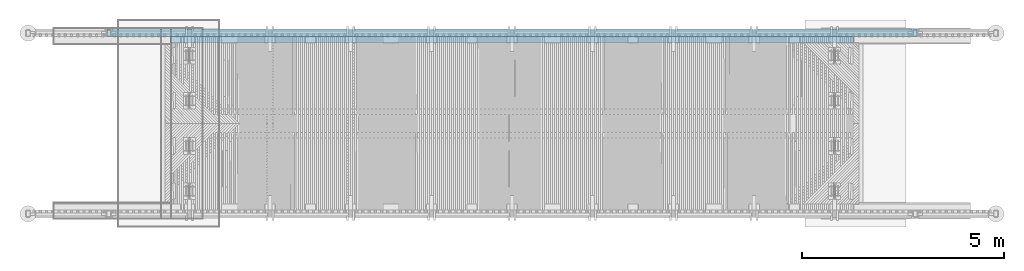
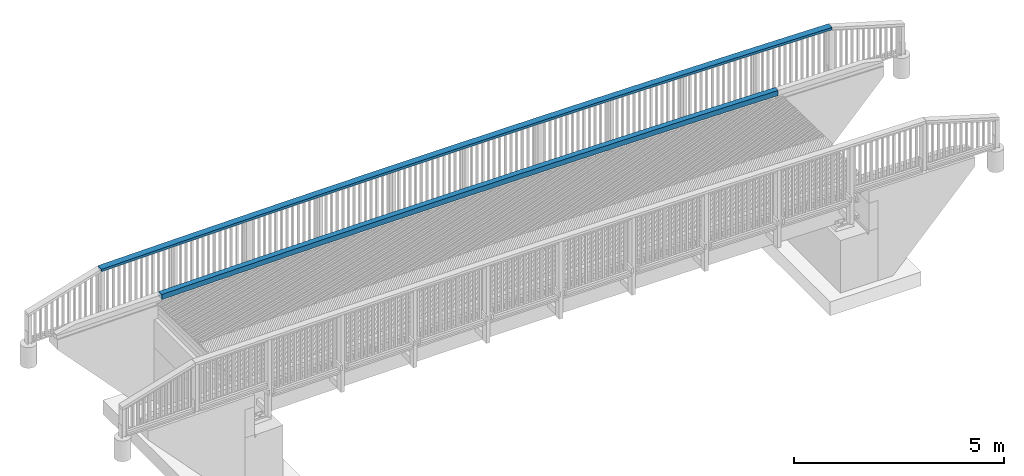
# One storey, part 36 of 52: 2 beams.
"""IFC2X3 building model written with IfcOpenShell, lengths in millimetres."""

from ifc_helpers import new_model, si_unit, frame, origin_with_axes, place, context, subcontext, project, spatial, faceted_brep, material, type_object, element, save


model = new_model("IFC2X3")

# Units and contexts
model_context = context("Model", 3, precision=1e-05, world=origin_with_axes())
body_context = subcontext(model_context, "Body", "Model", "MODEL_VIEW")
ifc_project = project(units=[si_unit("LENGTHUNIT", "METRE", prefix="MILLI"), si_unit("AREAUNIT", "SQUARE_METRE"), si_unit("VOLUMEUNIT", "CUBIC_METRE"), si_unit("MASSUNIT", "GRAM", prefix="KILO"), si_unit("TIMEUNIT", "SECOND"), si_unit("PLANEANGLEUNIT", "RADIAN"), si_unit("SOLIDANGLEUNIT", "STERADIAN"), si_unit("THERMODYNAMICTEMPERATUREUNIT", "DEGREE_CELSIUS"), si_unit("LUMINOUSINTENSITYUNIT", "LUMEN")], contexts=[model_context])

# Site, building, storey
site_placement = place(None, origin_with_axes())
site = spatial("IfcSite", under=ifc_project, at=site_placement, Name="Undefined", CompositionType="ELEMENT")
building_placement = place(site_placement, origin_with_axes())
building = spatial("IfcBuilding", under=site, at=building_placement, Name="Undefined", CompositionType="ELEMENT")
storey_placement = place(building_placement, origin_with_axes())
storey = spatial("IfcBuildingStorey", under=building, at=storey_placement, Name="Undefined", CompositionType="ELEMENT", Elevation=0.0)

# Beams
ifc_material = material(Name="TIMBER/Timber_Undefined")
beam_type_1 = type_object("IfcBeamType", Name="150*150", PredefinedType="NOTDEFINED")
beam_1_placement = place(storey_placement, frame((-101.638019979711, 4440.00490770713, 3288.62561019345), z_axis=(0.0, -1.0, 0.0), x_axis=(1.0, 0.0, 0.0)))
element("IfcBeam", 1, at=beam_1_placement, inside=storey, type_object=beam_type_1, material=ifc_material, Name="TÖRMÄYSJOHDE", ObjectType="150*150", context=body_context, shape_type="Brep", body=[
    faceted_brep([(-322.982711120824, -79.4552193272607, 75.0), (-325.088810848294, 70.5299944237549, 75.0), (-367.511180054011, 69.9228401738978, 75.0), (-368.361913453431, -80.1046921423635, 75.0), (-325.088810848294, 70.5299944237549, -75.0), (-367.511180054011, 69.9228401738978, -75.0), (-322.982711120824, -79.4552193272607, -75.0), (-368.361913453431, -80.1046921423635, -75.0), (1.01255045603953, -74.9931646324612, -75.0), (1.01255045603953, -74.9931646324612, 75.0), (-1.01255045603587, 74.9931646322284, 75.0), (-1.01255045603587, 74.9931646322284, -75.0), (323.066072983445, 79.2813189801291, -75.0), (325.010174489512, -70.7060820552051, -75.0), (325.010174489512, -70.7060820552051, 75.0), (323.066072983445, 79.2813189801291, 75.0), (647.146964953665, 83.3944562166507, 75.0), (647.146964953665, 83.3944562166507, -75.0), (649.010066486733, -66.5939728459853, -75.0), (649.010066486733, -66.5939728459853, 75.0), (973.012131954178, -62.6568382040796, 75.0), (971.230030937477, 87.3325751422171, 75.0), (971.230030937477, 87.3325751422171, -75.0), (973.012131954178, -62.6568382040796, -75.0), (1297.01627639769, -58.8946792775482, -75.0), (1297.01627639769, -58.8946792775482, 75.0), (1295.3151764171, 91.0956746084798, 75.0), (1295.3151764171, 91.0956746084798, -75.0), (1619.40230687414, 94.6837535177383, -75.0), (1621.0224053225, -55.307497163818, -75.0), (1621.0224053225, -55.307497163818, 75.0), (1619.40230687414, 94.6837535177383, 75.0), (1943.49132778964, 98.096810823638, 75.0), (1943.49132778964, 98.096810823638, -75.0), (1945.03042423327, -51.8952929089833, -75.0), (1945.03042423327, -51.8952929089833, 75.0), (2269.04023863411, -48.6580675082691, 75.0), (2267.58214464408, 101.334845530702, 75.0), (2267.58214464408, 101.334845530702, -75.0), (2269.04023863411, -48.6580675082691, -75.0), (2593.05175402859, -45.5958219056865, -75.0), (2593.05175402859, -45.5958219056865, 75.0), (2591.67466291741, 104.397856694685, 75.0), (2591.67466291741, 104.397856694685, -75.0), (2915.7687880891, 107.285843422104, -75.0), (2917.06487591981, -42.7085569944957, -75.0), (2917.06487591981, -42.7085569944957, 75.0), (2915.7687880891, 107.285843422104, 75.0), (3239.86442563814, 109.998804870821, 75.0), (3239.86442563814, 109.998804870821, -75.0), (3241.07950981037, -39.9962736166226, -75.0), (3241.07950981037, -39.9962736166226, 75.0), (3565.09556120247, -37.4589725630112, 75.0), (3563.96148104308, 112.536740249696, 75.0), (3563.96148104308, 112.536740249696, -75.0), (3565.09556120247, -37.4589725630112, -75.0), (3889.11293559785, -35.0966545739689, -75.0), (3889.11293559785, -35.0966545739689, 75.0), (3888.05985978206, 114.899648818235, 75.0), (3888.05985978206, 114.899648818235, -75.0), (4212.15946733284, 117.087529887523, -75.0), (4213.1315384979, -32.9093203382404, -75.0), (4213.1315384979, -32.9093203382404, 75.0), (4212.15946733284, 117.087529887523, 75.0), (4536.2602091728, 119.100382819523, 75.0), (4536.2602091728, 119.100382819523, -75.0), (4537.15127540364, -30.8969704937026, -75.0), (4537.15127540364, -30.8969704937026, 75.0), (4861.17205181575, -29.0596056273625, 75.0), (4860.36199077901, 120.938207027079, 75.0), (4860.36199077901, 120.938207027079, -75.0), (4861.17205181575, -29.0596056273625, -75.0), (5185.19377323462, -27.3972262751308, -75.0), (5185.19377323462, -27.3972262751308, 75.0), (5184.46471762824, 122.601001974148, 75.0), (5184.46471762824, 122.601001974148, -75.0), (5508.56829519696, 124.088767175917, -75.0), (5509.21634516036, -25.9098329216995, -75.0), (5509.21634516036, -25.9098329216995, 75.0), (5508.56829519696, 124.088767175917, 75.0), (5832.67262896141, 125.401502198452, 75.0), (5832.67262896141, 125.401502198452, -75.0), (5833.23967309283, -24.5974260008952, -75.0), (5833.23967309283, -24.5974260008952, 75.0), (6157.26366253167, -23.4600058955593, 75.0), (6156.77762439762, 126.539206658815, 75.0), (6156.77762439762, 126.539206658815, -75.0), (6157.26366253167, -23.4600058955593, -75.0), (6481.28821897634, -22.4975729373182, -75.0), (6481.28821897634, -22.4975729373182, 75.0), (6480.88318698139, 127.501880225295, 75.0), (6480.88318698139, 127.501880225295, -75.0), (6804.98922218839, 128.289522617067, -75.0), (6805.3132479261, -21.7101274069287, -75.0), (6805.3132479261, -21.7101274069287, 75.0), (6804.98922218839, 128.289522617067, 75.0), (7129.09563549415, 128.902133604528, 75.0), (7129.09563549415, 128.902133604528, -75.0), (7129.33865488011, -21.0976695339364, -75.0), (7129.33865488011, -21.0976695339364, 75.0), (7453.36434533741, -20.6601994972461, 75.0), (7453.20233237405, 129.339713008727, 75.0), (7453.20233237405, 129.339713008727, -75.0), (7453.36434533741, -20.6601994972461, -75.0), (7777.39022479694, -20.3977174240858, -75.0), (7777.39022479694, -20.3977174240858, 75.0), (7777.30921830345, 129.602260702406, 75.0), (7777.30921830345, 129.602260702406, -75.0), (8101.4161987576, 129.689776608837, -75.0), (8101.4161987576, -20.3102233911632, -75.0), (8101.4161987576, -20.3102233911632, 75.0), (8101.4161987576, 129.689776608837, 75.0), (8425.52317921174, 129.602260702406, 75.0), (8425.52317921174, 129.602260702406, -75.0), (8425.44217271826, -20.3977174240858, -75.0), (8425.44217271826, -20.3977174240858, 75.0), (8749.46805217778, -20.6601994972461, 75.0), (8749.63006514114, 129.339713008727, 75.0), (8749.63006514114, 129.339713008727, -75.0), (8749.46805217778, -20.6601994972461, -75.0), (9073.49374263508, -21.0976695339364, -75.0), (9073.49374263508, -21.0976695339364, 75.0), (9073.73676202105, 128.902133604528, 75.0), (9073.73676202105, 128.902133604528, -75.0), (9397.8431753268, 128.289522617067, -75.0), (9397.51914958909, -21.7101274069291, -75.0), (9397.51914958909, -21.7101274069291, 75.0), (9397.8431753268, 128.289522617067, 75.0), (9721.9492105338, 127.501880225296, 75.0), (9721.9492105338, 127.501880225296, -75.0), (9721.54417853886, -22.4975729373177, -75.0), (9721.54417853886, -22.4975729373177, 75.0), (10045.5687349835, -23.4600058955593, 75.0), (10046.0547731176, 126.539206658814, 75.0), (10046.0547731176, 126.539206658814, -75.0), (10045.5687349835, -23.4600058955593, -75.0), (10369.5927244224, -24.5974260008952, -75.0), (10369.5927244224, -24.5974260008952, 75.0), (10370.1597685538, 125.401502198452, 75.0), (10370.1597685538, 125.401502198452, -75.0), (10694.2641023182, 124.088767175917, -75.0), (10693.6160523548, -25.9098329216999, -75.0), (10693.6160523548, -25.9098329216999, 75.0), (10694.2641023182, 124.088767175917, 75.0), (11018.367679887, 122.601001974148, 75.0), (11018.367679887, 122.601001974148, -75.0), (11017.6386242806, -27.3972262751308, -75.0), (11017.6386242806, -27.3972262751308, 75.0), (11341.6603456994, -29.0596056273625, 75.0), (11342.4704067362, 120.938207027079, 75.0), (11342.4704067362, 120.938207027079, -75.0), (11341.6603456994, -29.0596056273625, -75.0), (11665.6811221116, -30.8969704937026, -75.0), (11665.6811221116, -30.8969704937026, 75.0), (11666.5721883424, 119.100382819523, 75.0), (11666.5721883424, 119.100382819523, -75.0), (11990.6729301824, 117.087529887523, -75.0), (11989.7008590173, -32.9093203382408, -75.0), (11989.7008590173, -32.9093203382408, 75.0), (11990.6729301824, 117.087529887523, 75.0), (12314.7725377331, 114.899648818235, 75.0), (12314.7725377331, 114.899648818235, -75.0), (12313.7194619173, -35.0966545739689, -75.0), (12313.7194619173, -35.0966545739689, 75.0), (12637.7368363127, -37.4589725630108, 75.0), (12638.8709164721, 112.536740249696, 75.0), (12638.8709164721, 112.536740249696, -75.0), (12637.7368363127, -37.4589725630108, -75.0), (12961.7528877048, -39.9962736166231, -75.0), (12961.7528877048, -39.9962736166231, 75.0), (12962.9679718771, 109.998804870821, 75.0), (12962.9679718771, 109.998804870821, -75.0), (13287.0636094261, 107.285843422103, -75.0), (13285.7675215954, -42.7085569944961, -75.0), (13285.7675215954, -42.7085569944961, 75.0), (13287.0636094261, 107.285843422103, 75.0), (13611.1577345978, 104.397856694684, 75.0), (13611.1577345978, 104.397856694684, -75.0), (13609.7806434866, -45.5958219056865, -75.0), (13609.7806434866, -45.5958219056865, 75.0), (13933.7921588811, -48.6580675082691, 75.0), (13935.2502528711, 101.334845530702, 75.0), (13935.2502528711, 101.334845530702, -75.0), (13933.7921588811, -48.6580675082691, -75.0), (14257.8019732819, -51.8952929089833, -75.0), (14257.8019732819, -51.8952929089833, 75.0), (14259.3410697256, 98.096810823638, 75.0), (14259.3410697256, 98.096810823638, -75.0), (14583.430090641, 94.6837535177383, -75.0), (14581.8099921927, -55.3074971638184, -75.0), (14581.8099921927, -55.3074971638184, 75.0), (14583.430090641, 94.6837535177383, 75.0), (14907.5172210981, 91.0956746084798, 75.0), (14907.5172210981, 91.0956746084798, -75.0), (14905.8161211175, -58.8946792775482, -75.0), (14905.8161211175, -58.8946792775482, 75.0), (15229.820265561, -62.6568382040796, 75.0), (15231.6023665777, 87.3325751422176, 75.0), (15231.6023665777, 87.3325751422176, -75.0), (15229.820265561, -62.6568382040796, -75.0), (15553.8223310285, -66.5939728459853, -75.0), (15553.8223310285, -66.5939728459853, 75.0), (15555.6854325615, 83.3944562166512, 75.0), (15555.6854325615, 83.3944562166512, -75.0), (15879.7663245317, 79.2813189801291, -75.0), (15877.8222230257, -70.7060820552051, -75.0), (15877.8222230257, -70.7060820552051, 75.0), (15879.7663245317, 79.2813189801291, 75.0), (16203.8449479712, 74.9931646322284, 75.0), (16203.8449479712, 74.9931646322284, -75.0), (16201.8198470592, -74.9931646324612, -75.0), (16201.8198470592, -74.9931646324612, 75.0), (16513.3537972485, -79.2803664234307, 75.0), (16515.4567816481, 70.7048910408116, 75.0), (16515.4567816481, 70.7048910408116, -75.0), (16513.3537972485, -79.2803664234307, -75.0), (16571.6382119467, -80.1127239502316, -75.0), (16571.6382119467, -80.1127239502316, 75.0), (16570.7872297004, 69.9147190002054, 75.0), (16570.7872297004, 69.9147190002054, -75.0)], [[[0, 1, 2, 3]], [[1, 4, 5, 2]], [[4, 6, 7, 5]], [[3, 2, 5, 7]], [[6, 0, 3, 7]], [[0, 6, 8, 9]], [[1, 0, 9, 10]], [[4, 1, 10, 11]], [[6, 4, 11, 8]], [[8, 11, 12, 13]], [[9, 8, 13, 14]], [[10, 9, 14, 15]], [[11, 10, 15, 12]], [[12, 15, 16, 17]], [[13, 12, 17, 18]], [[14, 13, 18, 19]], [[15, 14, 19, 16]], [[16, 19, 20, 21]], [[17, 16, 21, 22]], [[18, 17, 22, 23]], [[19, 18, 23, 20]], [[20, 23, 24, 25]], [[21, 20, 25, 26]], [[22, 21, 26, 27]], [[23, 22, 27, 24]], [[24, 27, 28, 29]], [[25, 24, 29, 30]], [[26, 25, 30, 31]], [[27, 26, 31, 28]], [[28, 31, 32, 33]], [[29, 28, 33, 34]], [[30, 29, 34, 35]], [[31, 30, 35, 32]], [[32, 35, 36, 37]], [[33, 32, 37, 38]], [[34, 33, 38, 39]], [[35, 34, 39, 36]], [[36, 39, 40, 41]], [[37, 36, 41, 42]], [[38, 37, 42, 43]], [[39, 38, 43, 40]], [[40, 43, 44, 45]], [[41, 40, 45, 46]], [[42, 41, 46, 47]], [[43, 42, 47, 44]], [[44, 47, 48, 49]], [[45, 44, 49, 50]], [[46, 45, 50, 51]], [[47, 46, 51, 48]], [[48, 51, 52, 53]], [[49, 48, 53, 54]], [[50, 49, 54, 55]], [[51, 50, 55, 52]], [[52, 55, 56, 57]], [[53, 52, 57, 58]], [[54, 53, 58, 59]], [[55, 54, 59, 56]], [[56, 59, 60, 61]], [[57, 56, 61, 62]], [[58, 57, 62, 63]], [[59, 58, 63, 60]], [[60, 63, 64, 65]], [[61, 60, 65, 66]], [[62, 61, 66, 67]], [[63, 62, 67, 64]], [[64, 67, 68, 69]], [[65, 64, 69, 70]], [[66, 65, 70, 71]], [[67, 66, 71, 68]], [[68, 71, 72, 73]], [[69, 68, 73, 74]], [[70, 69, 74, 75]], [[71, 70, 75, 72]], [[72, 75, 76, 77]], [[73, 72, 77, 78]], [[74, 73, 78, 79]], [[75, 74, 79, 76]], [[76, 79, 80, 81]], [[77, 76, 81, 82]], [[78, 77, 82, 83]], [[79, 78, 83, 80]], [[80, 83, 84, 85]], [[81, 80, 85, 86]], [[82, 81, 86, 87]], [[83, 82, 87, 84]], [[84, 87, 88, 89]], [[85, 84, 89, 90]], [[86, 85, 90, 91]], [[87, 86, 91, 88]], [[88, 91, 92, 93]], [[89, 88, 93, 94]], [[90, 89, 94, 95]], [[91, 90, 95, 92]], [[92, 95, 96, 97]], [[93, 92, 97, 98]], [[94, 93, 98, 99]], [[95, 94, 99, 96]], [[96, 99, 100, 101]], [[97, 96, 101, 102]], [[98, 97, 102, 103]], [[99, 98, 103, 100]], [[100, 103, 104, 105]], [[101, 100, 105, 106]], [[102, 101, 106, 107]], [[103, 102, 107, 104]], [[104, 107, 108, 109]], [[105, 104, 109, 110]], [[106, 105, 110, 111]], [[107, 106, 111, 108]], [[108, 111, 112, 113]], [[109, 108, 113, 114]], [[110, 109, 114, 115]], [[111, 110, 115, 112]], [[112, 115, 116, 117]], [[113, 112, 117, 118]], [[114, 113, 118, 119]], [[115, 114, 119, 116]], [[116, 119, 120, 121]], [[117, 116, 121, 122]], [[118, 117, 122, 123]], [[119, 118, 123, 120]], [[120, 123, 124, 125]], [[121, 120, 125, 126]], [[122, 121, 126, 127]], [[123, 122, 127, 124]], [[124, 127, 128, 129]], [[125, 124, 129, 130]], [[126, 125, 130, 131]], [[127, 126, 131, 128]], [[128, 131, 132, 133]], [[129, 128, 133, 134]], [[130, 129, 134, 135]], [[131, 130, 135, 132]], [[132, 135, 136, 137]], [[133, 132, 137, 138]], [[134, 133, 138, 139]], [[135, 134, 139, 136]], [[136, 139, 140, 141]], [[137, 136, 141, 142]], [[138, 137, 142, 143]], [[139, 138, 143, 140]], [[140, 143, 144, 145]], [[141, 140, 145, 146]], [[142, 141, 146, 147]], [[143, 142, 147, 144]], [[144, 147, 148, 149]], [[145, 144, 149, 150]], [[146, 145, 150, 151]], [[147, 146, 151, 148]], [[148, 151, 152, 153]], [[149, 148, 153, 154]], [[150, 149, 154, 155]], [[151, 150, 155, 152]], [[152, 155, 156, 157]], [[153, 152, 157, 158]], [[154, 153, 158, 159]], [[155, 154, 159, 156]], [[156, 159, 160, 161]], [[157, 156, 161, 162]], [[158, 157, 162, 163]], [[159, 158, 163, 160]], [[160, 163, 164, 165]], [[161, 160, 165, 166]], [[162, 161, 166, 167]], [[163, 162, 167, 164]], [[164, 167, 168, 169]], [[165, 164, 169, 170]], [[166, 165, 170, 171]], [[167, 166, 171, 168]], [[168, 171, 172, 173]], [[169, 168, 173, 174]], [[170, 169, 174, 175]], [[171, 170, 175, 172]], [[172, 175, 176, 177]], [[173, 172, 177, 178]], [[174, 173, 178, 179]], [[175, 174, 179, 176]], [[176, 179, 180, 181]], [[177, 176, 181, 182]], [[178, 177, 182, 183]], [[179, 178, 183, 180]], [[180, 183, 184, 185]], [[181, 180, 185, 186]], [[182, 181, 186, 187]], [[183, 182, 187, 184]], [[184, 187, 188, 189]], [[185, 184, 189, 190]], [[186, 185, 190, 191]], [[187, 186, 191, 188]], [[188, 191, 192, 193]], [[189, 188, 193, 194]], [[190, 189, 194, 195]], [[191, 190, 195, 192]], [[192, 195, 196, 197]], [[193, 192, 197, 198]], [[194, 193, 198, 199]], [[195, 194, 199, 196]], [[196, 199, 200, 201]], [[197, 196, 201, 202]], [[198, 197, 202, 203]], [[199, 198, 203, 200]], [[200, 203, 204, 205]], [[201, 200, 205, 206]], [[202, 201, 206, 207]], [[203, 202, 207, 204]], [[204, 207, 208, 209]], [[205, 204, 209, 210]], [[206, 205, 210, 211]], [[207, 206, 211, 208]], [[208, 211, 212, 213]], [[209, 208, 213, 214]], [[210, 209, 214, 215]], [[211, 210, 215, 212]], [[212, 215, 216, 217]], [[213, 212, 217, 218]], [[214, 213, 218, 219]], [[215, 214, 219, 216]], [[218, 217, 216, 219]]]),
])
beam_type_2 = type_object("IfcBeamType", Name="180*70", PredefinedType="NOTDEFINED")
beam_2_placement = place(storey_placement, frame((-2050.58316541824, 4604.98790803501, 4514.55540579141), z_axis=(0.0, 1.0, 0.0), x_axis=(1.0, 0.0, 0.0)))
element("IfcBeam", 2, at=beam_2_placement, inside=storey, type_object=beam_type_2, material=ifc_material, Name="YLÄJOHDE", ObjectType="180*70", context=body_context, shape_type="Brep", body=[
    faceted_brep([(402.548160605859, 28.4307633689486, 90.0), (402.548160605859, 28.4307633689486, -90.0), (9.58316613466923, 34.8481648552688, -90.0), (9.58316613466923, 34.8481648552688, 90.0), (401.428487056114, -41.5602812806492, -90.0), (9.58316627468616, -35.1611648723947, -90.0), (401.428487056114, -41.5602812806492, 90.0), (9.58316627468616, -35.1611648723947, 90.0), (803.444421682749, -47.8574786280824, 90.0), (804.517445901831, 22.1342967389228, 90.0), (804.517445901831, 22.1342967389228, -90.0), (803.444421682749, -47.8574786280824, -90.0), (1205.46446410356, -53.8867306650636, -90.0), (1205.46446410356, -53.8867306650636, 90.0), (1206.49083851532, 16.105744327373, 90.0), (1206.49083851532, 16.105744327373, -90.0), (1608.46815988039, 10.3451088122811, -90.0), (1607.4884357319, -59.6480347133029, -90.0), (1607.4884357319, -59.6480347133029, 90.0), (1608.46815988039, 10.3451088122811, 90.0), (2010.44923142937, 4.85239275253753, 90.0), (2010.44923142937, 4.85239275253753, -90.0), (2009.51615797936, -65.1413882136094, -90.0), (2009.51615797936, -65.1413882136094, 90.0), (2411.54745225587, -70.3667887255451, 90.0), (2412.43387459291, -0.372401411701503, 90.0), (2412.43387459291, -0.372401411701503, -90.0), (2411.54745225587, -70.3667887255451, -90.0), (2813.58213996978, -75.3242339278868, -90.0), (2813.58213996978, -75.3242339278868, 90.0), (2814.42191080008, -5.32927135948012, 90.0), (2814.42191080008, -5.32927135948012, -90.0), (3216.41316147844, -10.0182148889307, -90.0), (3215.62004252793, -80.0137216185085, -90.0), (3215.62004252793, -80.0137216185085, 90.0), (3216.41316147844, -10.0182148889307, 90.0), (3618.40744805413, -14.4392299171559, 90.0), (3618.40744805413, -14.4392299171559, -90.0), (3617.66098133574, -84.4352497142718, -90.0), (3617.66098133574, -84.4352497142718, 90.0), (4019.70477779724, -88.5888162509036, 90.0), (4020.40459195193, -18.5923144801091, 90.0), (4020.40459195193, -18.5923144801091, -90.0), (4019.70477779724, -88.5888162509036, -90.0), (4421.75125331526, -92.4744193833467, -90.0), (4421.75125331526, -92.4744193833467, 90.0), (4422.40441459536, -22.4774667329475, 90.0), (4422.40441459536, -22.4774667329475, -90.0), (4824.40673740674, -26.0946849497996, -90.0), (4823.80022929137, -96.0920573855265, -90.0), (4823.80022929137, -96.0920573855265, 90.0), (4824.40673740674, -26.0946849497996, 90.0), (5226.4113818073, -29.4439675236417, 90.0), (5226.4113818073, -29.4439675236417, -90.0), (5225.85152712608, -99.4417286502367, -90.0), (5225.85152712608, -99.4417286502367, 90.0), (5627.90496821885, -102.523431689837, 90.0), (5628.41816921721, -32.5253129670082, 90.0), (5628.41816921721, -32.5253129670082, -90.0), (5627.90496821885, -102.523431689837, -90.0), (6029.96037396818, -105.337165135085, -90.0), (6029.96037396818, -105.337165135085, 90.0), (6030.4269210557, -35.3387199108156, 90.0), (6030.4269210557, -35.3387199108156, -90.0), (6432.43745874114, -37.8841871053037, -90.0), (6432.01756577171, -107.882927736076, -90.0), (6432.01756577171, -107.882927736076, 90.0), (6432.43745874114, -37.8841871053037, 90.0), (6834.4496036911, -40.1617134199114, 90.0), (6834.4496036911, -40.1617134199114, -90.0), (6834.07636502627, -110.160718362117, -90.0), (6834.07636502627, -110.160718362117, 90.0), (7236.136593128, -112.170536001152, 90.0), (7236.46317732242, -42.1712978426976, 90.0), (7236.46317732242, -42.1712978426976, -90.0), (7236.136593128, -112.170536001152, -90.0), (7638.19807147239, -113.912379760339, -90.0), (7638.19807147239, -113.912379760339, 90.0), (7638.47800105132, -43.9129394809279, 90.0), (7638.47800105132, -43.9129394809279, -90.0), (8040.49389629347, -45.3866375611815, -90.0), (8040.26062145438, -115.38624886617, -90.0), (8040.26062145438, -115.38624886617, 90.0), (8040.49389629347, -45.3866375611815, 90.0), (8442.51068446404, -46.5923914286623, 90.0), (8442.51068446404, -46.5923914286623, -90.0), (8442.32406446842, -116.592142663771, -90.0), (8442.32406446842, -116.592142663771, 90.0), (8844.38822190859, -117.530060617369, 90.0), (8844.52818697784, -47.530200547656, 90.0), (8844.52818697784, -47.530200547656, -90.0), (8844.38822190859, -117.530060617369, -90.0), (9246.45291516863, -118.200002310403, -90.0), (9246.45291516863, -118.200002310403, 90.0), (9246.54622524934, -48.2000645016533, 90.0), (9246.54622524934, -48.2000645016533, -90.0), (9648.56462069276, -48.6019829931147, -90.0), (9648.51796564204, -118.601967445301, -90.0), (9648.51796564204, -118.601967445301, 90.0), (9648.56462069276, -48.6019829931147, 90.0), (10050.5831947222, -48.7359558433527, 90.0), (10050.5831947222, -48.7359558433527, -90.0), (10050.5831947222, -118.735955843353, -90.0), (10050.5831947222, -118.735955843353, 90.0), (10452.6484238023, -118.601967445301, 90.0), (10452.6017687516, -48.6019829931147, 90.0), (10452.6017687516, -48.6019829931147, -90.0), (10452.6484238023, -118.601967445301, -90.0), (10854.7134742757, -118.200002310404, -90.0), (10854.7134742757, -118.200002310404, 90.0), (10854.620164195, -48.2000645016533, 90.0), (10854.620164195, -48.2000645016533, -90.0), (11256.6382024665, -47.530200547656, -90.0), (11256.7781675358, -117.530060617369, -90.0), (11256.7781675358, -117.530060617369, 90.0), (11256.6382024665, -47.530200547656, 90.0), (11658.6557049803, -46.5923914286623, 90.0), (11658.6557049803, -46.5923914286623, -90.0), (11658.8423249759, -116.592142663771, -90.0), (11658.8423249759, -116.592142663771, 90.0), (12060.90576799, -115.386248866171, 90.0), (12060.6724931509, -45.3866375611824, 90.0), (12060.6724931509, -45.3866375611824, -90.0), (12060.90576799, -115.386248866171, -90.0), (12462.968317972, -113.912379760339, -90.0), (12462.968317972, -113.912379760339, 90.0), (12462.688388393, -43.9129394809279, 90.0), (12462.688388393, -43.9129394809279, -90.0), (12864.7032121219, -42.1712978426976, -90.0), (12865.0297963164, -112.170536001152, -90.0), (12865.0297963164, -112.170536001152, 90.0), (12864.7032121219, -42.1712978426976, 90.0), (13266.7167857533, -40.1617134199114, 90.0), (13266.7167857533, -40.1617134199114, -90.0), (13267.0900244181, -110.160718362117, -90.0), (13267.0900244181, -110.160718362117, 90.0), (13669.1488236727, -107.882927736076, 90.0), (13668.7289307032, -37.8841871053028, 90.0), (13668.7289307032, -37.8841871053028, -90.0), (13669.1488236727, -107.882927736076, -90.0), (14071.2060154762, -105.337165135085, -90.0), (14071.2060154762, -105.337165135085, 90.0), (14070.7394683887, -35.3387199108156, 90.0), (14070.7394683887, -35.3387199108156, -90.0), (14472.7482202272, -32.5253129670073, -90.0), (14473.2614212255, -102.523431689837, -90.0), (14473.2614212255, -102.523431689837, 90.0), (14472.7482202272, -32.5253129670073, 90.0), (14874.7550076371, -29.4439675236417, 90.0), (14874.7550076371, -29.4439675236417, -90.0), (14875.3148623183, -99.4417286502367, -90.0), (14875.3148623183, -99.4417286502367, 90.0), (15277.366160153, -96.0920573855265, 90.0), (15276.7596520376, -26.0946849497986, 90.0), (15276.7596520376, -26.0946849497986, -90.0), (15277.366160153, -96.0920573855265, -90.0), (15679.4151361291, -92.4744193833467, -90.0), (15679.4151361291, -92.4744193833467, 90.0), (15678.761974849, -22.4774667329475, 90.0), (15678.761974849, -22.4774667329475, -90.0), (16080.7617974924, -18.5923144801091, -90.0), (16081.4616116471, -88.5888162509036, -90.0), (16081.4616116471, -88.5888162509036, 90.0), (16080.7617974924, -18.5923144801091, 90.0), (16482.7589413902, -14.4392299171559, 90.0), (16482.7589413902, -14.4392299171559, -90.0), (16483.5054081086, -84.4352497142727, -90.0), (16483.5054081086, -84.4352497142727, 90.0), (16885.5463469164, -80.0137216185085, 90.0), (16884.7532279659, -10.0182148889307, 90.0), (16884.7532279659, -10.0182148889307, -90.0), (16885.5463469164, -80.0137216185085, -90.0), (17287.5842494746, -75.3242339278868, -90.0), (17287.5842494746, -75.3242339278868, 90.0), (17286.7444786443, -5.32927135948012, 90.0), (17286.7444786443, -5.32927135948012, -90.0), (17688.7325148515, -0.372401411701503, -90.0), (17689.6189371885, -70.3667887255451, -90.0), (17689.6189371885, -70.3667887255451, 90.0), (17688.7325148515, -0.372401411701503, 90.0), (18090.717158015, 4.85239275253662, 90.0), (18090.717158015, 4.85239275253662, -90.0), (18091.650231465, -65.1413882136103, -90.0), (18091.650231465, -65.1413882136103, 90.0), (18493.6779537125, -59.648034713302, 90.0), (18492.698229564, 10.3451088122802, 90.0), (18492.698229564, 10.3451088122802, -90.0), (18493.6779537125, -59.648034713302, -90.0), (18895.7019253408, -53.8867306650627, -90.0), (18895.7019253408, -53.8867306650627, 90.0), (18894.675550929, 16.1057443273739, 90.0), (18894.675550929, 16.1057443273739, -90.0), (19296.6489435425, 22.1342967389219, -90.0), (19297.7219677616, -47.8574786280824, -90.0), (19297.7219677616, -47.8574786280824, 90.0), (19296.6489435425, 22.1342967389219, 90.0), (19698.6182288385, 28.4307633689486, 90.0), (19698.6182288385, 28.4307633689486, -90.0), (19699.7379023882, -41.5602812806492, -90.0), (19699.7379023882, -41.5602812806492, 90.0), (20089.5831647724, -35.1938272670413, 90.0), (20089.5831646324, 34.8155024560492, 90.0), (20089.5831646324, 34.8155024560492, -90.0), (20089.5831647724, -35.1938272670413, -90.0)], [[[0, 1, 2, 3]], [[1, 4, 5, 2]], [[4, 6, 7, 5]], [[2, 5, 7, 3]], [[6, 0, 3, 7]], [[0, 6, 8, 9]], [[1, 0, 9, 10]], [[4, 1, 10, 11]], [[6, 4, 11, 8]], [[8, 11, 12, 13]], [[9, 8, 13, 14]], [[10, 9, 14, 15]], [[11, 10, 15, 12]], [[12, 15, 16, 17]], [[13, 12, 17, 18]], [[14, 13, 18, 19]], [[15, 14, 19, 16]], [[16, 19, 20, 21]], [[17, 16, 21, 22]], [[18, 17, 22, 23]], [[19, 18, 23, 20]], [[20, 23, 24, 25]], [[21, 20, 25, 26]], [[22, 21, 26, 27]], [[23, 22, 27, 24]], [[24, 27, 28, 29]], [[25, 24, 29, 30]], [[26, 25, 30, 31]], [[27, 26, 31, 28]], [[28, 31, 32, 33]], [[29, 28, 33, 34]], [[30, 29, 34, 35]], [[31, 30, 35, 32]], [[32, 35, 36, 37]], [[33, 32, 37, 38]], [[34, 33, 38, 39]], [[35, 34, 39, 36]], [[36, 39, 40, 41]], [[37, 36, 41, 42]], [[38, 37, 42, 43]], [[39, 38, 43, 40]], [[40, 43, 44, 45]], [[41, 40, 45, 46]], [[42, 41, 46, 47]], [[43, 42, 47, 44]], [[44, 47, 48, 49]], [[45, 44, 49, 50]], [[46, 45, 50, 51]], [[47, 46, 51, 48]], [[48, 51, 52, 53]], [[49, 48, 53, 54]], [[50, 49, 54, 55]], [[51, 50, 55, 52]], [[52, 55, 56, 57]], [[53, 52, 57, 58]], [[54, 53, 58, 59]], [[55, 54, 59, 56]], [[56, 59, 60, 61]], [[57, 56, 61, 62]], [[58, 57, 62, 63]], [[59, 58, 63, 60]], [[60, 63, 64, 65]], [[61, 60, 65, 66]], [[62, 61, 66, 67]], [[63, 62, 67, 64]], [[64, 67, 68, 69]], [[65, 64, 69, 70]], [[66, 65, 70, 71]], [[67, 66, 71, 68]], [[68, 71, 72, 73]], [[69, 68, 73, 74]], [[70, 69, 74, 75]], [[71, 70, 75, 72]], [[72, 75, 76, 77]], [[73, 72, 77, 78]], [[74, 73, 78, 79]], [[75, 74, 79, 76]], [[76, 79, 80, 81]], [[77, 76, 81, 82]], [[78, 77, 82, 83]], [[79, 78, 83, 80]], [[80, 83, 84, 85]], [[81, 80, 85, 86]], [[82, 81, 86, 87]], [[83, 82, 87, 84]], [[84, 87, 88, 89]], [[85, 84, 89, 90]], [[86, 85, 90, 91]], [[87, 86, 91, 88]], [[88, 91, 92, 93]], [[89, 88, 93, 94]], [[90, 89, 94, 95]], [[91, 90, 95, 92]], [[92, 95, 96, 97]], [[93, 92, 97, 98]], [[94, 93, 98, 99]], [[95, 94, 99, 96]], [[96, 99, 100, 101]], [[97, 96, 101, 102]], [[98, 97, 102, 103]], [[99, 98, 103, 100]], [[100, 103, 104, 105]], [[101, 100, 105, 106]], [[102, 101, 106, 107]], [[103, 102, 107, 104]], [[104, 107, 108, 109]], [[105, 104, 109, 110]], [[106, 105, 110, 111]], [[107, 106, 111, 108]], [[108, 111, 112, 113]], [[109, 108, 113, 114]], [[110, 109, 114, 115]], [[111, 110, 115, 112]], [[112, 115, 116, 117]], [[113, 112, 117, 118]], [[114, 113, 118, 119]], [[115, 114, 119, 116]], [[116, 119, 120, 121]], [[117, 116, 121, 122]], [[118, 117, 122, 123]], [[119, 118, 123, 120]], [[120, 123, 124, 125]], [[121, 120, 125, 126]], [[122, 121, 126, 127]], [[123, 122, 127, 124]], [[124, 127, 128, 129]], [[125, 124, 129, 130]], [[126, 125, 130, 131]], [[127, 126, 131, 128]], [[128, 131, 132, 133]], [[129, 128, 133, 134]], [[130, 129, 134, 135]], [[131, 130, 135, 132]], [[132, 135, 136, 137]], [[133, 132, 137, 138]], [[134, 133, 138, 139]], [[135, 134, 139, 136]], [[136, 139, 140, 141]], [[137, 136, 141, 142]], [[138, 137, 142, 143]], [[139, 138, 143, 140]], [[140, 143, 144, 145]], [[141, 140, 145, 146]], [[142, 141, 146, 147]], [[143, 142, 147, 144]], [[144, 147, 148, 149]], [[145, 144, 149, 150]], [[146, 145, 150, 151]], [[147, 146, 151, 148]], [[148, 151, 152, 153]], [[149, 148, 153, 154]], [[150, 149, 154, 155]], [[151, 150, 155, 152]], [[152, 155, 156, 157]], [[153, 152, 157, 158]], [[154, 153, 158, 159]], [[155, 154, 159, 156]], [[156, 159, 160, 161]], [[157, 156, 161, 162]], [[158, 157, 162, 163]], [[159, 158, 163, 160]], [[160, 163, 164, 165]], [[161, 160, 165, 166]], [[162, 161, 166, 167]], [[163, 162, 167, 164]], [[164, 167, 168, 169]], [[165, 164, 169, 170]], [[166, 165, 170, 171]], [[167, 166, 171, 168]], [[168, 171, 172, 173]], [[169, 168, 173, 174]], [[170, 169, 174, 175]], [[171, 170, 175, 172]], [[172, 175, 176, 177]], [[173, 172, 177, 178]], [[174, 173, 178, 179]], [[175, 174, 179, 176]], [[176, 179, 180, 181]], [[177, 176, 181, 182]], [[178, 177, 182, 183]], [[179, 178, 183, 180]], [[180, 183, 184, 185]], [[181, 180, 185, 186]], [[182, 181, 186, 187]], [[183, 182, 187, 184]], [[184, 187, 188, 189]], [[185, 184, 189, 190]], [[186, 185, 190, 191]], [[187, 186, 191, 188]], [[188, 191, 192, 193]], [[189, 188, 193, 194]], [[190, 189, 194, 195]], [[191, 190, 195, 192]], [[192, 195, 196, 197]], [[193, 192, 197, 198]], [[194, 193, 198, 199]], [[195, 194, 199, 196]], [[196, 199, 200, 201]], [[197, 196, 201, 202]], [[198, 197, 202, 203]], [[199, 198, 203, 200]], [[202, 201, 200, 203]]]),
])

save(model, "model.ifc")
